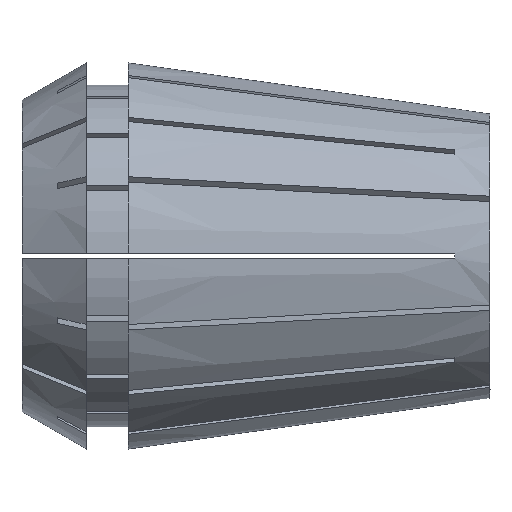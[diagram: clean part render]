
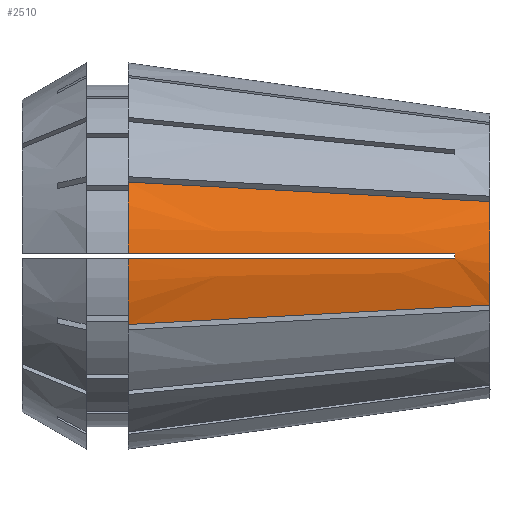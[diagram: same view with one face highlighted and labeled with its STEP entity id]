
A CAD part, left-side view. The second image highlights one B-rep face of the part: STEP entity #2510.
In plain terms, the highlighted conical face has half-angle 8 degrees and reference radius 12.157 mm.
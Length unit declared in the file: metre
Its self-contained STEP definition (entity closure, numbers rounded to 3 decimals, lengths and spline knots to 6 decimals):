
#30=CONICAL_SURFACE('',#2768,0.012157,0.14);
#85=CIRCLE('',#2620,0.012579);
#110=CIRCLE('',#2669,0.0165);
#157=CIRCLE('',#2750,0.012157);
#169=CIRCLE('',#2769,0.0165);
#194=B_SPLINE_CURVE_WITH_KNOTS('',3,(#3771,#3772,#3773,#3774),
 .UNSPECIFIED.,.F.,.F.,(4,4),(0.,0.031204),
 .UNSPECIFIED.);
#216=B_SPLINE_CURVE_WITH_KNOTS('',3,(#4150,#4151,#4152,#4153,#4154,#4155,
#4156,#4157,#4158,#4159),.UNSPECIFIED.,.F.,.F.,(4,3,3,4),(0.01948,
0.022926,0.045853,0.047654),.UNSPECIFIED.);
#219=B_SPLINE_CURVE_WITH_KNOTS('',3,(#4193,#4194,#4195,#4196,#4197,#4198,
#4199,#4200,#4201,#4202),.UNSPECIFIED.,.F.,.F.,(4,3,3,4),(0.01948,
0.022926,0.045853,0.047654),.UNSPECIFIED.);
#801=ORIENTED_EDGE('',*,*,#1086,.F.);
#802=ORIENTED_EDGE('',*,*,#1302,.T.);
#803=ORIENTED_EDGE('',*,*,#1219,.F.);
#804=ORIENTED_EDGE('',*,*,#1216,.F.);
#805=ORIENTED_EDGE('',*,*,#1230,.T.);
#806=ORIENTED_EDGE('',*,*,#1361,.T.);
#807=ORIENTED_EDGE('',*,*,#1093,.T.);
#808=ORIENTED_EDGE('',*,*,#1349,.F.);
#1086=EDGE_CURVE('',#1460,#1455,#1706,.T.);
#1093=EDGE_CURVE('',#1467,#1466,#194,.T.);
#1216=EDGE_CURVE('',#1576,#1574,#85,.T.);
#1219=EDGE_CURVE('',#1574,#1579,#216,.T.);
#1230=EDGE_CURVE('',#1576,#1588,#219,.T.);
#1302=EDGE_CURVE('',#1460,#1579,#110,.T.);
#1349=EDGE_CURVE('',#1455,#1466,#157,.T.);
#1361=EDGE_CURVE('',#1588,#1467,#169,.T.);
#1455=VERTEX_POINT('',#3745);
#1460=VERTEX_POINT('',#3755);
#1466=VERTEX_POINT('',#3770);
#1467=VERTEX_POINT('',#3775);
#1574=VERTEX_POINT('',#4139);
#1576=VERTEX_POINT('',#4143);
#1579=VERTEX_POINT('',#4160);
#1588=VERTEX_POINT('',#4192);
#1706=LINE('',#3756,#1914);
#1914=VECTOR('',#2947,1.);
#2154=EDGE_LOOP('',(#801,#802,#803,#804,#805,#806,#807,#808));
#2284=FACE_BOUND('',#2154,.T.);
#2510=ADVANCED_FACE('',(#2284),#30,.T.);
#2620=AXIS2_PLACEMENT_3D('',#4144,#3116,#3117);
#2669=AXIS2_PLACEMENT_3D('',#4395,#3262,#3263);
#2750=AXIS2_PLACEMENT_3D('',#4476,#3424,#3425);
#2768=AXIS2_PLACEMENT_3D('',#4494,#3460,#3461);
#2769=AXIS2_PLACEMENT_3D('',#4495,#3462,#3463);
#2947=DIRECTION('',(0.129,-0.99,-0.053));
#3116=DIRECTION('',(0.,1.,0.));
#3117=DIRECTION('',(0.,0.,-1.));
#3262=DIRECTION('',(0.,-1.,0.));
#3263=DIRECTION('',(0.,0.,-1.));
#3424=DIRECTION('',(0.,-1.,0.));
#3425=DIRECTION('',(0.,0.,-1.));
#3460=DIRECTION('',(0.,1.,0.));
#3461=DIRECTION('',(0.,0.,1.));
#3462=DIRECTION('',(0.,-1.,0.));
#3463=DIRECTION('',(0.,0.,-1.));
#3745=CARTESIAN_POINT('',(-0.011232,0.,0.004652));
#3755=CARTESIAN_POINT('',(-0.015244,0.0309,0.006314));
#3756=CARTESIAN_POINT('',(0.,-0.086504,0.));
#3770=CARTESIAN_POINT('',(-0.011414,0.,-0.004187));
#3771=CARTESIAN_POINT('',(-0.015428,0.0309,-0.005849));
#3772=CARTESIAN_POINT('',(-0.01409,0.0206,-0.005295));
#3773=CARTESIAN_POINT('',(-0.012752,0.0103,-0.004741));
#3774=CARTESIAN_POINT('',(-0.011414,0.,-0.004187));
#3775=CARTESIAN_POINT('',(-0.015428,0.0309,-0.005849));
#4139=CARTESIAN_POINT('',(-0.012576,0.003,0.00025));
#4143=CARTESIAN_POINT('',(-0.012576,0.003,-0.00025));
#4144=CARTESIAN_POINT('',(0.,0.003,0.));
#4150=CARTESIAN_POINT('',(-0.012576,0.003,0.00025));
#4151=CARTESIAN_POINT('',(-0.012736,0.004138,0.00025));
#4152=CARTESIAN_POINT('',(-0.012896,0.005275,0.00025));
#4153=CARTESIAN_POINT('',(-0.013056,0.006413,0.00025));
#4154=CARTESIAN_POINT('',(-0.01412,0.013981,0.00025));
#4155=CARTESIAN_POINT('',(-0.015184,0.021548,0.00025));
#4156=CARTESIAN_POINT('',(-0.016247,0.029116,0.00025));
#4157=CARTESIAN_POINT('',(-0.016331,0.029711,0.00025));
#4158=CARTESIAN_POINT('',(-0.016415,0.030305,0.00025));
#4159=CARTESIAN_POINT('',(-0.016498,0.0309,0.00025));
#4160=CARTESIAN_POINT('',(-0.016498,0.0309,0.00025));
#4192=CARTESIAN_POINT('',(-0.016498,0.0309,-0.00025));
#4193=CARTESIAN_POINT('',(-0.012576,0.003,-0.00025));
#4194=CARTESIAN_POINT('',(-0.012736,0.004138,-0.00025));
#4195=CARTESIAN_POINT('',(-0.012896,0.005275,-0.00025));
#4196=CARTESIAN_POINT('',(-0.013056,0.006413,-0.00025));
#4197=CARTESIAN_POINT('',(-0.01412,0.013981,-0.00025));
#4198=CARTESIAN_POINT('',(-0.015184,0.021548,-0.00025));
#4199=CARTESIAN_POINT('',(-0.016247,0.029116,-0.00025));
#4200=CARTESIAN_POINT('',(-0.016331,0.029711,-0.00025));
#4201=CARTESIAN_POINT('',(-0.016415,0.030305,-0.00025));
#4202=CARTESIAN_POINT('',(-0.016498,0.0309,-0.00025));
#4395=CARTESIAN_POINT('',(0.,0.0309,0.));
#4476=CARTESIAN_POINT('',(0.,0.,0.));
#4494=CARTESIAN_POINT('',(0.,0.,0.));
#4495=CARTESIAN_POINT('',(0.,0.0309,0.));
